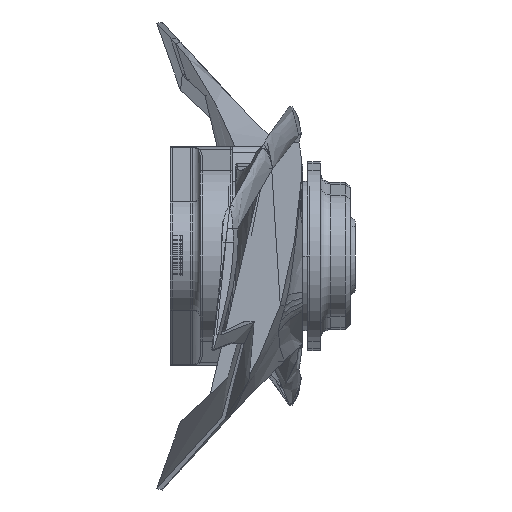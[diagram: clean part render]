
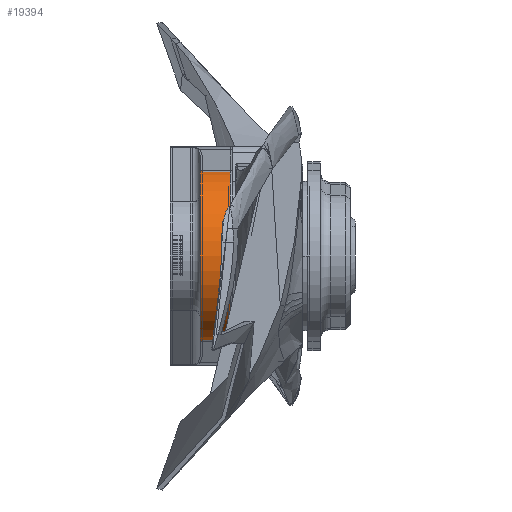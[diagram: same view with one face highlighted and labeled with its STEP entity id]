
A CAD part, left-side view. The second image highlights one B-rep face of the part: STEP entity #19394.
In plain terms, the highlighted cylindrical face has radius 17.5 mm (diameter 35 mm), a partial arc.
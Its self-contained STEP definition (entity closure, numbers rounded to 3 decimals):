
#843 = DIRECTION ( 'NONE',  ( 0., 1., 0. ) ) ;
#1345 = VERTEX_POINT ( 'NONE', #49835 ) ;
#4528 = CARTESIAN_POINT ( 'NONE',  ( -43.851, 12., -17.071 ) ) ;
#5386 = CARTESIAN_POINT ( 'NONE',  ( -40., 6., 0. ) ) ;
#6245 = AXIS2_PLACEMENT_3D ( 'NONE', #34870, #39803, #35657 ) ;
#11458 = CARTESIAN_POINT ( 'NONE',  ( -43.851, 0., 17.071 ) ) ;
#11955 = EDGE_CURVE ( 'NONE', #1345, #42238, #45192, .T. ) ;
#13652 = ORIENTED_EDGE ( 'NONE', *, *, #37792, .T. ) ;
#16106 = FACE_OUTER_BOUND ( 'NONE', #20118, .T. ) ;
#19243 = EDGE_CURVE ( 'NONE', #21126, #42238, #21966, .T. ) ;
#19394 = ADVANCED_FACE ( 'NONE', ( #16106 ), #50954, .T. ) ;
#20118 = EDGE_LOOP ( 'NONE', ( #39659, #13652, #31039, #37916 ) ) ;
#20235 = DIRECTION ( 'NONE',  ( 0., -1., 0. ) ) ;
#21126 = VERTEX_POINT ( 'NONE', #26626 ) ;
#21966 = CIRCLE ( 'NONE', #51021, 17.5 ) ;
#23386 = DIRECTION ( 'NONE',  ( 0., 1., 0. ) ) ;
#24885 = DIRECTION ( 'NONE',  ( 0., 0., 1. ) ) ;
#26626 = CARTESIAN_POINT ( 'NONE',  ( -43.851, 0., -17.071 ) ) ;
#27667 = CIRCLE ( 'NONE', #31018, 17.5 ) ;
#31018 = AXIS2_PLACEMENT_3D ( 'NONE', #5386, #23386, #24885 ) ;
#31039 = ORIENTED_EDGE ( 'NONE', *, *, #19243, .T. ) ;
#32744 = CARTESIAN_POINT ( 'NONE',  ( -43.851, 12., 17.071 ) ) ;
#32761 = CARTESIAN_POINT ( 'NONE',  ( -43.851, 6., -17.071 ) ) ;
#34870 = CARTESIAN_POINT ( 'NONE',  ( -40., 12., 0. ) ) ;
#35657 = DIRECTION ( 'NONE',  ( 0., 0., -1. ) ) ;
#37792 = EDGE_CURVE ( 'NONE', #45268, #21126, #43534, .T. ) ;
#37916 = ORIENTED_EDGE ( 'NONE', *, *, #11955, .F. ) ;
#39375 = EDGE_CURVE ( 'NONE', #45268, #1345, #27667, .T. ) ;
#39659 = ORIENTED_EDGE ( 'NONE', *, *, #39375, .F. ) ;
#39803 = DIRECTION ( 'NONE',  ( 0., -1., 0. ) ) ;
#42238 = VERTEX_POINT ( 'NONE', #11458 ) ;
#43393 = VECTOR ( 'NONE', #44309, 1000. ) ;
#43534 = LINE ( 'NONE', #4528, #43393 ) ;
#44252 = DIRECTION ( 'NONE',  ( 0., 0., 1. ) ) ;
#44309 = DIRECTION ( 'NONE',  ( 0., -1., 0. ) ) ;
#44778 = CARTESIAN_POINT ( 'NONE',  ( -40., 0., 0. ) ) ;
#45192 = LINE ( 'NONE', #32744, #46886 ) ;
#45268 = VERTEX_POINT ( 'NONE', #32761 ) ;
#46886 = VECTOR ( 'NONE', #20235, 1000. ) ;
#49835 = CARTESIAN_POINT ( 'NONE',  ( -43.851, 6., 17.071 ) ) ;
#50954 = CYLINDRICAL_SURFACE ( 'NONE', #6245, 17.5 ) ;
#51021 = AXIS2_PLACEMENT_3D ( 'NONE', #44778, #843, #44252 ) ;
